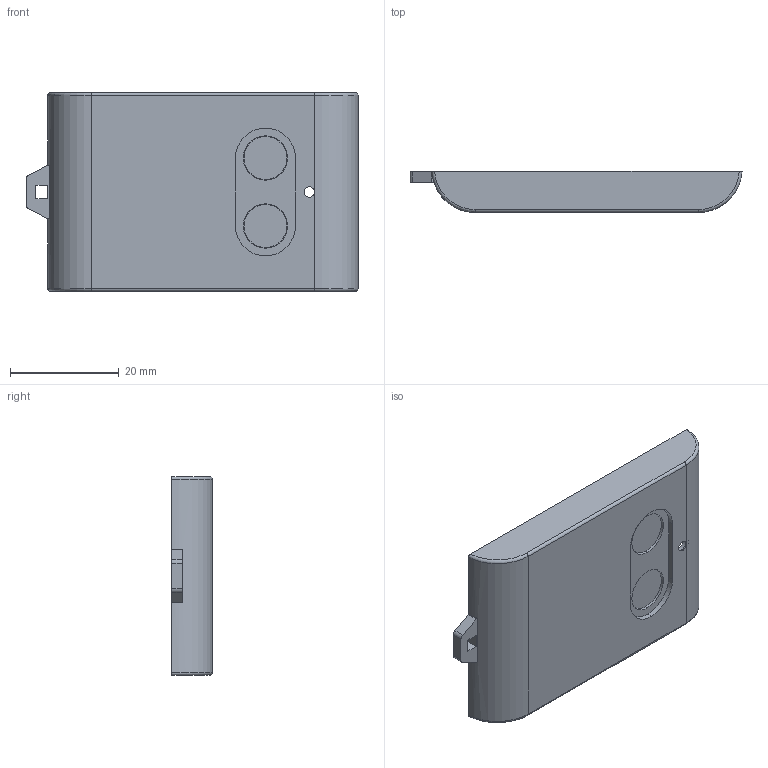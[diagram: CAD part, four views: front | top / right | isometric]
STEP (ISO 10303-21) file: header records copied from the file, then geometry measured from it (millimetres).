
FILE_DESCRIPTION (( 'STEP AP214' ), '1' );
FILE_NAME ('Tapa amb botons PP24.STEP', '2016-10-06T10:05:16', ( 'aaa' ), ( '' ), 'SwSTEP 2.0', 'SolidWorks 2013', '' );
FILE_SCHEMA (( 'AUTOMOTIVE_DESIGN' ));
Length unit declared in the file: millimetre
Products named in the file (6): Boto vermell PP24; Boto blau PP24; Tapa PP24; Tapa amb botons PP24; Component boto vermell PP24; Component boto blau PP24
Assembly tree (5 placements, depth 2):
  Tapa amb botons PP24
    Tapa PP24
    Boto blau PP24
    Boto vermell PP24
    Component boto blau PP24
    Component boto vermell PP24
Bounding box: 61 x 7.5 x 36.5 mm (x, y, z)
Volume: 4985 mm3; surface area: 7249.4 mm2
Topology: 5 solids, 5 shells, 125 faces, 291 edges, 190 vertices
Faces by surface type: plane 64, cylinder 57, torus 4
Entity records: 3873 total; most frequent: DIRECTION 687, CARTESIAN_POINT 634, ORIENTED_EDGE 582, EDGE_CURVE 291, AXIS2_PLACEMENT_3D 267, VERTEX_POINT 190, LINE 153, VECTOR 153
